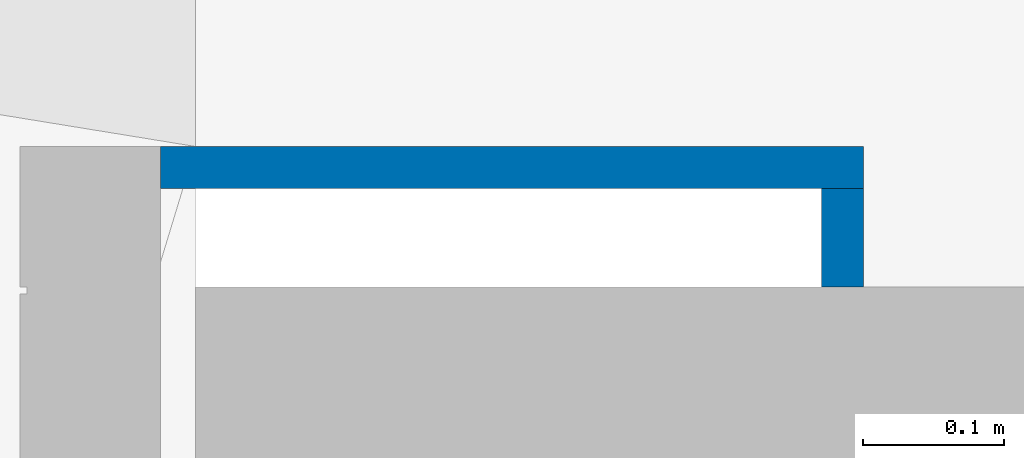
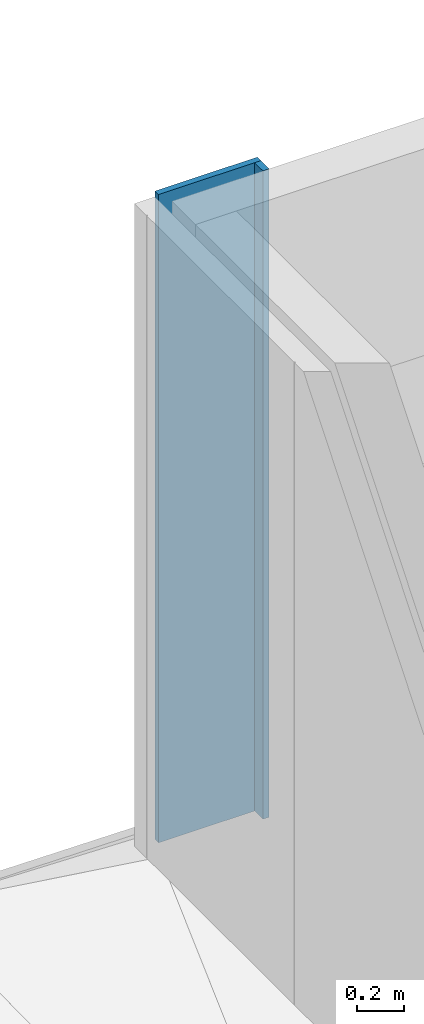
# One storey, part 36 of 77: 2 walls.
"""IFC2X3 building model written with IfcOpenShell, lengths in millimetres."""

from ifc_helpers import new_model, entity, si_unit, converted_unit, derived_unit, direction, frame, frame_2d, origin, place, context, subcontext, project, spatial, rectangle, extrude, material, layer, layer_set, layer_usage, type_object, element, save


model = new_model("IFC2X3")

# Units and contexts
model_context = context("Model", 3, precision=0.01, world=origin(), true_north=direction((6.12303176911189e-17, 1.0)))
body_context = subcontext(model_context, "Body", "Model", "MODEL_VIEW")
ifc_project = project(units=[si_unit("LENGTHUNIT", "METRE", prefix="MILLI"), si_unit("AREAUNIT", "SQUARE_METRE"), si_unit("VOLUMEUNIT", "CUBIC_METRE"), converted_unit("PLANEANGLEUNIT", "DEGREE", entity("IfcRatioMeasure", 0.0174532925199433), si_unit("PLANEANGLEUNIT", "RADIAN"), dimensions=[0, 0, 0, 0, 0, 0, 0]), si_unit("MASSUNIT", "GRAM", prefix="KILO"), derived_unit("MASSDENSITYUNIT", [(si_unit("MASSUNIT", "GRAM", prefix="KILO"), 1), (si_unit("LENGTHUNIT", "METRE"), -3)]), si_unit("TIMEUNIT", "SECOND"), si_unit("FREQUENCYUNIT", "HERTZ"), si_unit("THERMODYNAMICTEMPERATUREUNIT", "DEGREE_CELSIUS"), derived_unit("THERMALTRANSMITTANCEUNIT", [(si_unit("MASSUNIT", "GRAM", prefix="KILO"), 1), (si_unit("THERMODYNAMICTEMPERATUREUNIT", "KELVIN"), -1), (si_unit("TIMEUNIT", "SECOND"), -3)]), derived_unit("VOLUMETRICFLOWRATEUNIT", [(si_unit("LENGTHUNIT", "METRE"), 3), (si_unit("TIMEUNIT", "SECOND"), -1)]), si_unit("ELECTRICCURRENTUNIT", "AMPERE"), si_unit("ELECTRICVOLTAGEUNIT", "VOLT"), si_unit("POWERUNIT", "WATT"), si_unit("FORCEUNIT", "NEWTON", prefix="KILO"), si_unit("ILLUMINANCEUNIT", "LUX"), si_unit("LUMINOUSFLUXUNIT", "LUMEN"), si_unit("LUMINOUSINTENSITYUNIT", "CANDELA"), derived_unit("USERDEFINED", [(si_unit("MASSUNIT", "GRAM", prefix="KILO"), -1), (si_unit("LENGTHUNIT", "METRE"), -2), (si_unit("TIMEUNIT", "SECOND"), 3), (si_unit("LUMINOUSFLUXUNIT", "LUMEN"), 1)]), derived_unit("LINEARVELOCITYUNIT", [(si_unit("LENGTHUNIT", "METRE"), 1), (si_unit("TIMEUNIT", "SECOND"), -1)]), si_unit("PRESSUREUNIT", "PASCAL"), derived_unit("USERDEFINED", [(si_unit("LENGTHUNIT", "METRE"), -2), (si_unit("MASSUNIT", "GRAM", prefix="KILO"), 1), (si_unit("TIMEUNIT", "SECOND"), -2)])], contexts=[model_context])

# Site, building, storey
site_placement = place(None, origin())
site = spatial("IfcSite", under=ifc_project, at=site_placement, Name="Default", CompositionType="ELEMENT")
building_placement = place(site_placement, origin())
building = spatial("IfcBuilding", under=site, at=building_placement, CompositionType="ELEMENT")
storey_placement = place(building_placement, origin())
storey = spatial("IfcBuildingStorey", under=building, at=storey_placement, Name="1. KORRUS", CompositionType="ELEMENT", Elevation=0.0)

# Walls
ifc_material_1 = material(Name="Must-al-komposiitplaat")
ifc_layer_1 = layer(ifc_material_1, 5.0)
ifc_material_2 = material(Name="Metal Stud Layer")
ifc_layer_2 = layer(ifc_material_2, 25.0)
ifc_layer_set = layer_set([ifc_layer_1, ifc_layer_2], Name="Basic Wall:komposiitplaat+karkass25")
ifc_layer_usage_1 = layer_usage(ifc_layer_set, "AXIS2", "NEGATIVE", 15.0)
wall_type = type_object("IfcWallType", Name="Basic Wall:komposiitplaat+karkass25", PredefinedType="STANDARD", material=ifc_layer_set)
wall_1_placement = place(storey_placement, frame((-16500.2351867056, 40885.0994344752, 50.0)))
element("IfcWallStandardCase", 1, at=wall_1_placement, inside=storey, type_object=wall_type, material=ifc_layer_usage_1, Name="Basic Wall:komposiitplaat+karkass25", ObjectType="Basic Wall:komposiitplaat+karkass25", context=body_context, shape_type="SweptSolid", body=[
    extrude(rectangle(XDim=500.000000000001, YDim=29.9999999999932, at=frame_2d((250.000000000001, 0.0), x_axis=(-1.0, 0.0))), origin(), (0.0, 0.0, 1.0), 3350.0),
])
ifc_layer_usage_2 = layer_usage(ifc_layer_set, "AXIS2", "NEGATIVE", 15.0)
wall_2_placement = place(storey_placement, frame((-16015.2351867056, 40870.0994344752, 50.0), z_axis=(0.0, 0.0, 1.0), x_axis=(0.0, -1.0, 0.0)))
element("IfcWallStandardCase", 2, at=wall_2_placement, inside=storey, type_object=wall_type, material=ifc_layer_usage_2, Name="Basic Wall:komposiitplaat+karkass25", ObjectType="Basic Wall:komposiitplaat+karkass25", context=body_context, shape_type="SweptSolid", body=[
    extrude(rectangle(XDim=70.0000000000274, YDim=30.0000000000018, at=frame_2d((35.0000000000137, 0.0), x_axis=(-1.0, 0.0))), origin(), (0.0, 0.0, 1.0), 3350.0),
])

save(model, "model.ifc")
